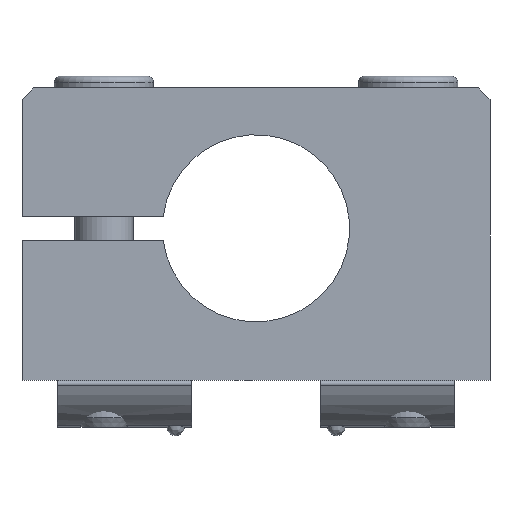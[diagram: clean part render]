
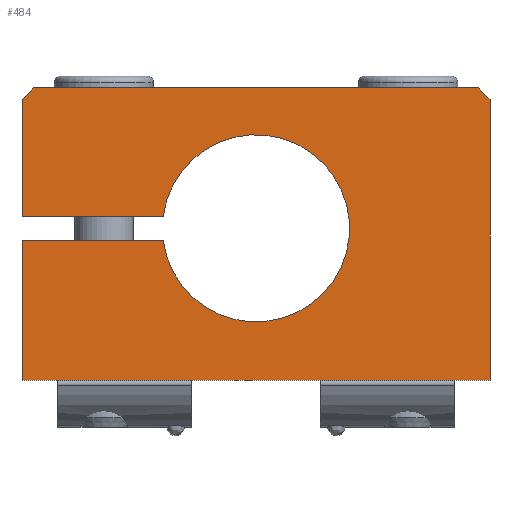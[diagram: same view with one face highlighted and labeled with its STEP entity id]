
A CAD part, front view. The second image highlights one B-rep face of the part: STEP entity #484.
In plain terms, the highlighted planar face has unit normal (0, -1, 0).
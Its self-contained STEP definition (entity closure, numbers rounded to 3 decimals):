
#484=ADVANCED_FACE('',(#1091),#1092,.F.);
#1091=FACE_OUTER_BOUND('',#1899,.T.);
#1092=PLANE('',#1900);
#1899=EDGE_LOOP('',(#2834,#2835,#2836,#2837,#2838,#2839,#2840,#2841,#2842,#2843));
#1900=AXIS2_PLACEMENT_3D('',#2844,#2845,#2846);
#2834=ORIENTED_EDGE('',*,*,#4951,.T.);
#2835=ORIENTED_EDGE('',*,*,#4930,.T.);
#2836=ORIENTED_EDGE('',*,*,#4955,.T.);
#2837=ORIENTED_EDGE('',*,*,#4925,.T.);
#2838=ORIENTED_EDGE('',*,*,#4940,.T.);
#2839=ORIENTED_EDGE('',*,*,#4966,.F.);
#2840=ORIENTED_EDGE('',*,*,#4960,.T.);
#2841=ORIENTED_EDGE('',*,*,#4967,.F.);
#2842=ORIENTED_EDGE('',*,*,#4938,.T.);
#2843=ORIENTED_EDGE('',*,*,#4948,.T.);
#2844=CARTESIAN_POINT('',(-20.0,-7.5,12.0));
#2845=DIRECTION('',(0.0,1.0,0.0));
#2846=DIRECTION('',(0.0,0.0,1.0));
#4925=EDGE_CURVE('',#5883,#5884,#5885,.F.);
#4930=EDGE_CURVE('',#5892,#5893,#5894,.F.);
#4938=EDGE_CURVE('',#5901,#5906,#5908,.T.);
#4940=EDGE_CURVE('',#5884,#5910,#5911,.T.);
#4948=EDGE_CURVE('',#5906,#5922,#5924,.T.);
#4951=EDGE_CURVE('',#5922,#5892,#5927,.T.);
#4955=EDGE_CURVE('',#5893,#5883,#5933,.T.);
#4960=EDGE_CURVE('',#5941,#5939,#5942,.T.);
#4966=EDGE_CURVE('',#5941,#5910,#5948,.T.);
#4967=EDGE_CURVE('',#5901,#5939,#5949,.T.);
#5883=VERTEX_POINT('',#7374);
#5884=VERTEX_POINT('',#7375);
#5885=LINE('',#7376,#7377);
#5892=VERTEX_POINT('',#7387);
#5893=VERTEX_POINT('',#7388);
#5894=LINE('',#7389,#7390);
#5901=VERTEX_POINT('',#7400);
#5906=VERTEX_POINT('',#7407);
#5908=LINE('',#7410,#7411);
#5910=VERTEX_POINT('',#7413);
#5911=LINE('',#7414,#7415);
#5922=VERTEX_POINT('',#7429);
#5924=LINE('',#7432,#7433);
#5927=LINE('',#7437,#7438);
#5933=LINE('',#7444,#7445);
#5939=VERTEX_POINT('',#7452);
#5941=VERTEX_POINT('',#7455);
#5942=CIRCLE('',#7456,8.0);
#5948=LINE('',#7465,#7466);
#5949=LINE('',#7467,#7468);
#7374=CARTESIAN_POINT('',(-19.0,-7.5,12.0));
#7375=CARTESIAN_POINT('',(-20.0,-7.5,11.0));
#7376=CARTESIAN_POINT('',(-20.0,-7.5,11.0));
#7377=VECTOR('',#9119,1.0);
#7387=CARTESIAN_POINT('',(20.0,-7.5,11.0));
#7388=CARTESIAN_POINT('',(19.0,-7.5,12.0));
#7389=CARTESIAN_POINT('',(19.0,-7.5,12.0));
#7390=VECTOR('',#9123,1.0);
#7400=CARTESIAN_POINT('',(-20.0,-7.5,-1.0));
#7407=CARTESIAN_POINT('',(-20.0,-7.5,-13.0));
#7410=CARTESIAN_POINT('',(-20.0,-7.5,12.0));
#7411=VECTOR('',#9130,1.0);
#7413=CARTESIAN_POINT('',(-20.0,-7.5,1.0));
#7414=CARTESIAN_POINT('',(-20.0,-7.5,12.0));
#7415=VECTOR('',#9131,1.0);
#7429=CARTESIAN_POINT('',(20.0,-7.5,-13.0));
#7432=CARTESIAN_POINT('',(-20.0,-7.5,-13.0));
#7433=VECTOR('',#9142,1.0);
#7437=CARTESIAN_POINT('',(20.0,-7.5,-13.0));
#7438=VECTOR('',#9144,1.0);
#7444=CARTESIAN_POINT('',(20.0,-7.5,12.0));
#7445=VECTOR('',#9151,1.0);
#7452=CARTESIAN_POINT('',(-7.937,-7.5,-1.0));
#7455=CARTESIAN_POINT('',(-7.937,-7.5,1.0));
#7456=AXIS2_PLACEMENT_3D('',#9157,#9158,#9159);
#7465=CARTESIAN_POINT('',(-20.0,-7.5,1.0));
#7466=VECTOR('',#9163,1.0);
#7467=CARTESIAN_POINT('',(-20.0,-7.5,-1.0));
#7468=VECTOR('',#9164,1.0);
#9119=DIRECTION('',(0.707,0.0,0.707));
#9123=DIRECTION('',(0.707,0.0,-0.707));
#9130=DIRECTION('',(0.,0.0,-1.0));
#9131=DIRECTION('',(0.,0.0,-1.0));
#9142=DIRECTION('',(1.0,0.0,0.0));
#9144=DIRECTION('',(0.0,0.0,1.0));
#9151=DIRECTION('',(-1.0,0.0,0.));
#9157=CARTESIAN_POINT('',(0.0,-7.5,0.0));
#9158=DIRECTION('',(-0.0,1.0,0.0));
#9159=DIRECTION('',(1.0,0.0,0.0));
#9163=DIRECTION('',(-1.0,0.0,0.));
#9164=DIRECTION('',(1.0,0.0,0.0));
